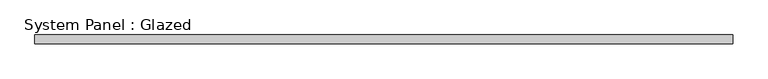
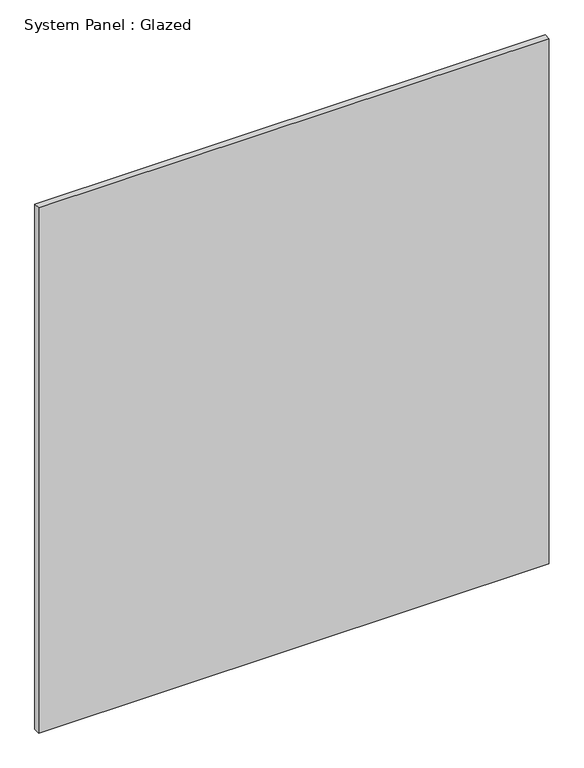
"""IFC4 building model written with IfcOpenShell, lengths in millimetres: plate geometry, System Panel : Glazed."""

import ifcopenshell
import ifcopenshell.guid

model = None  # the IFC model being written
_history = None  # IfcOwnerHistory: only IFC2X3 demands one
_inside = {}  # id of a spatial element -> (the spatial element, [elements in it])
_under = {}  # id of a project, library or spatial element -> (it, [spatial elements below it])
_declared = {}  # id of a project -> (the project, [libraries it declares])
_typed = {}  # id of a type object -> (the type object, [elements of that type])
_made_of = {}  # id of a material, layer set ... -> (it, [elements and type objects made of it])


def new_model(schema):
    """Start an empty IFC model of exactly this schema.

    Asked for "IFC4X3", IfcOpenShell would pick the latest addendum, in which some entities
    have other attributes; the version numbers below select the first issue.
    IFC2X3 requires an IfcOwnerHistory on every rooted entity: one is made here for all.
    """
    global model, _history
    if schema == "IFC4X3":
        model = ifcopenshell.file(schema_version=(4, 3, 0, 0))
    else:
        model = ifcopenshell.file(schema=schema)
    _inside.clear()
    _under.clear()
    _declared.clear()
    _typed.clear()
    _made_of.clear()
    _history = None
    if model.schema == "IFC2X3":
        org = make("IfcOrganization", Name="unknown")
        user = make(
            "IfcPersonAndOrganization",
            ThePerson=make("IfcPerson", FamilyName="unknown"),
            TheOrganization=org,
        )
        app = make(
            "IfcApplication",
            ApplicationDeveloper=org,
            Version="unknown",
            ApplicationFullName="unknown",
            ApplicationIdentifier="unknown",
        )
        _history = make(
            "IfcOwnerHistory",
            OwningUser=user,
            OwningApplication=app,
            ChangeAction="ADDED",
            CreationDate=0,
        )
    return model


def make(cls, **values):
    """One entity of the class cls with the attributes given. An attribute that is None is left unset."""
    return model.create_entity(
        cls, **{name: value for name, value in values.items() if value is not None}
    )


def rooted(cls, **values):
    """An entity with a GlobalId (a new one), such as an element, a storey or a relation."""
    return make(cls, GlobalId=ifcopenshell.guid.new(), OwnerHistory=_history, **values)


def si_unit(unit_type, name, prefix=None):
    """IfcSIUnit, for example si_unit("LENGTHUNIT", "METRE", prefix="MILLI")."""
    return make("IfcSIUnit", UnitType=unit_type, Prefix=prefix, Name=name)


def assignment(units):
    """IfcUnitAssignment: the units of a project."""
    return None if units is None else make("IfcUnitAssignment", Units=units)


def point(xyz):
    """IfcCartesianPoint."""
    return None if xyz is None else make("IfcCartesianPoint", Coordinates=xyz)


def direction(xyz):
    """IfcDirection."""
    return None if xyz is None else make("IfcDirection", DirectionRatios=xyz)


def frame(location, z_axis=None, x_axis=None):
    """IfcAxis2Placement3D, a coordinate frame: its origin and axes. An axis left out is left unset."""
    return make(
        "IfcAxis2Placement3D",
        Location=point(location),
        Axis=direction(z_axis),
        RefDirection=direction(x_axis),
    )


def origin():
    """The frame at (0, 0, 0) with its axes left unset."""
    return frame((0.0, 0.0, 0.0))


def origin_with_axes():
    """The frame at (0, 0, 0) with the z axis (0, 0, 1) and the x axis (1, 0, 0) written out."""
    return frame((0.0, 0.0, 0.0), z_axis=(0.0, 0.0, 1.0), x_axis=(1.0, 0.0, 0.0))


def place(relative_to, where):
    """IfcLocalPlacement: puts the frame where relative to a parent placement (None: the world)."""
    return make(
        "IfcLocalPlacement", PlacementRelTo=relative_to, RelativePlacement=where
    )


def context(
    kind, dimensions, precision=None, world=None, true_north=None, identifier=None
):
    """IfcGeometricRepresentationContext, for example the 3D "Model" context."""
    return make(
        "IfcGeometricRepresentationContext",
        ContextIdentifier=identifier,
        ContextType=kind,
        CoordinateSpaceDimension=dimensions,
        Precision=precision,
        WorldCoordinateSystem=world,
        TrueNorth=true_north,
    )


def project(units=None, contexts=None):
    """IfcProject with its units and contexts."""
    return rooted(
        "IfcProject",
        Name="project",
        RepresentationContexts=contexts,
        UnitsInContext=assignment(units),
    )


def spatial(cls, under=None, at=None, **own):
    """A site, building, storey or space (cls), placed at a placement, below another one or the project."""
    s = rooted(cls, ObjectPlacement=at, **own)
    if under is not None:
        _under.setdefault(under.id(), (under, []))[1].append(s)
    return s


def polyline(points):
    """IfcPolyline through the points."""
    return make("IfcPolyline", Points=[point(p) for p in points])


def outline(outer, holes=None, kind="AREA"):
    """IfcArbitraryClosedProfileDef: a profile drawn as a closed curve; with holes, ...WithVoids."""
    if holes is None:
        return make("IfcArbitraryClosedProfileDef", ProfileType=kind, OuterCurve=outer)
    return make(
        "IfcArbitraryProfileDefWithVoids",
        ProfileType=kind,
        OuterCurve=outer,
        InnerCurves=holes,
    )


def extrude(swept, where, along, depth):
    """IfcExtrudedAreaSolid: the profile swept, set in the frame where, extruded along a direction by depth."""
    return make(
        "IfcExtrudedAreaSolid",
        SweptArea=swept,
        Position=where,
        ExtrudedDirection=direction(along),
        Depth=depth,
    )


def shape(context_of_items, identifier, shape_type, items):
    """IfcShapeRepresentation: the items that make up one representation, for example the "Body"."""
    return make(
        "IfcShapeRepresentation",
        ContextOfItems=context_of_items,
        RepresentationIdentifier=identifier,
        RepresentationType=shape_type,
        Items=items,
    )


def source(mapping_origin, context_of_items, identifier, shape_type, items):
    """IfcRepresentationMap: a shape defined once, which mapped items show again and again."""
    return make(
        "IfcRepresentationMap",
        MappingOrigin=mapping_origin,
        MappedRepresentation=shape(context_of_items, identifier, shape_type, items),
    )


def transform(
    local_origin,
    x_axis=None,
    y_axis=None,
    z_axis=None,
    scale=None,
    scale2=None,
    scale3=None,
    uniform=True,
):
    """IfcCartesianTransformationOperator3D, or its non-uniform kind. x_axis, y_axis, z_axis: its Axis1, 2, 3."""
    if uniform:
        return make(
            "IfcCartesianTransformationOperator3D",
            Axis1=direction(x_axis),
            Axis2=direction(y_axis),
            LocalOrigin=point(local_origin),
            Scale=scale,
            Axis3=direction(z_axis),
        )
    return make(
        "IfcCartesianTransformationOperator3DnonUniform",
        Axis1=direction(x_axis),
        Axis2=direction(y_axis),
        LocalOrigin=point(local_origin),
        Scale=scale,
        Axis3=direction(z_axis),
        Scale2=scale2,
        Scale3=scale3,
    )


def mapped(mapping_source, mapping_target):
    """IfcMappedItem: shows the shape of a source again, moved by a transform."""
    return make(
        "IfcMappedItem", MappingSource=mapping_source, MappingTarget=mapping_target
    )


def made_of(thing, what):
    """Note that an element or type object is made of a material, layer set ...; save() writes the relation."""
    if what is not None:
        _made_of.setdefault(what.id(), (what, []))[1].append(thing)
    return thing


def element(
    cls,
    number,
    at=None,
    inside=None,
    cuts=None,
    type_object=None,
    material=None,
    context=None,
    identifier="Body",
    shape_type=None,
    held_by="IfcProductDefinitionShape",
    body=None,
    shapes=None,
    **own,
):
    """One element of the class cls, such as IfcWall. Its Tag is "e" and its number.

    at: its placement. inside: the storey or other place that contains it. cuts: it is an
    opening in that element (IfcRelVoidsElement). A single representation is given by context,
    identifier, shape_type and body (its items); several are given by shapes. held_by: the class
    of the entity that holds the representations. save() writes the other relations.
    """
    e = rooted(cls, Tag="e%d" % number, ObjectPlacement=at, **own)
    if body is not None:
        shapes = [shape(context, identifier, shape_type, body)]
    if shapes is not None:
        e.Representation = make(held_by, Representations=shapes)
    if inside is not None:
        _inside.setdefault(inside.id(), (inside, []))[1].append(e)
    if cuts is not None:
        rooted(
            "IfcRelVoidsElement", RelatingBuildingElement=cuts, RelatedOpeningElement=e
        )
    if type_object is not None:
        _typed.setdefault(type_object.id(), (type_object, []))[1].append(e)
    return made_of(e, material)


def aggregate(whole, parts):
    """IfcRelAggregates: a whole, such as a stair, and the parts it consists of."""
    return rooted("IfcRelAggregates", RelatingObject=whole, RelatedObjects=parts)


def save(model, path):
    """Write the relations noted so far, then the file.

    IfcRelAggregates (storeys below a building ...), IfcRelContainedInSpatialStructure (elements
    in a storey), IfcRelDefinesByType, IfcRelAssociatesMaterial and IfcRelDeclares: one each for
    every whole, place, type object, material and project.
    """
    for whole, parts in _under.values():
        aggregate(whole, parts)
    for where, things in _inside.values():
        rooted(
            "IfcRelContainedInSpatialStructure",
            RelatedElements=things,
            RelatingStructure=where,
        )
    for kind, things in _typed.values():
        rooted("IfcRelDefinesByType", RelatedObjects=things, RelatingType=kind)
    for what, things in _made_of.values():
        rooted("IfcRelAssociatesMaterial", RelatedObjects=things, RelatingMaterial=what)
    for by, libraries in _declared.values():
        rooted("IfcRelDeclares", RelatingContext=by, RelatedDefinitions=libraries)
    model.write(path)


def system_panel_glazed_3409cc1e(model_context):
    return source(origin(), model_context, "Body", "SweptSolid", [
        extrude(outline(polyline([(1000.0, 24.5), (-1000.0, 24.5), (-1000.0, 49.5), (1000.0, 49.5), (1000.0, 24.5)])), origin_with_axes(), (0.0, 0.0, 1.0), 2175.0),
    ])


if __name__ == "__main__":
    model = new_model("IFC4")
    model_context = context("Model", 3, world=origin())
    ifc_project = project(units=[si_unit("LENGTHUNIT", "METRE", prefix="MILLI")], contexts=[model_context])
    site = spatial("IfcSite", under=ifc_project)
    building = spatial("IfcBuilding", under=site)
    placement = place(None, origin())
    system_panel_glazed_shape = system_panel_glazed_3409cc1e(model_context)
    element("IfcPlate", 1, ObjectType="System Panel : Glazed", at=placement, inside=building, context=model_context, shape_type="MappedRepresentation", body=[
        mapped(system_panel_glazed_shape, transform((0.0, 0.0, 0.0), x_axis=(1.0, 0.0, 0.0), y_axis=(0.0, 1.0, 0.0), z_axis=(0.0, 0.0, 1.0))),
    ])
    save(model, "model.ifc")
